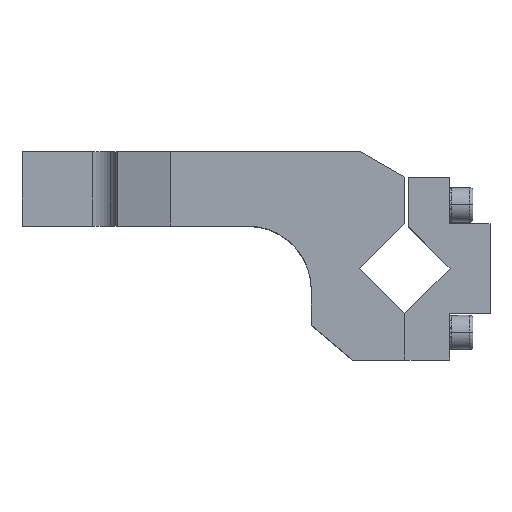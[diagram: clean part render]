
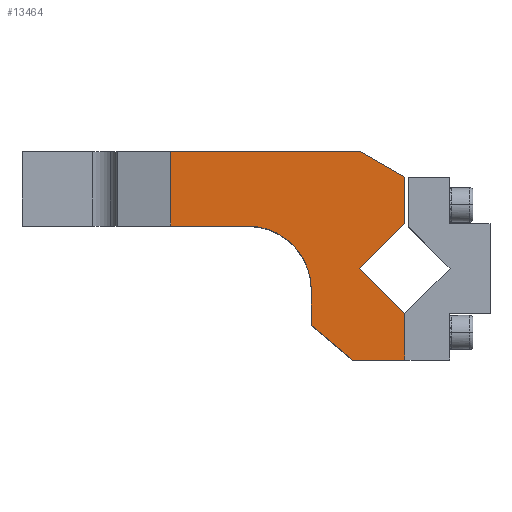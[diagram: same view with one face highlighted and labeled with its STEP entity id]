
A CAD part, top view. The second image highlights one B-rep face of the part: STEP entity #13464.
In plain terms, the highlighted planar face has unit normal (0, 0, 1).
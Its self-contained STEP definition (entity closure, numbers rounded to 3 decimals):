
#49=CARTESIAN_POINT('',(76.024,-85.79,-104.608));
#50=VERTEX_POINT('',#49);
#59=CARTESIAN_POINT('',(54.811,-77.003,-104.608));
#60=VERTEX_POINT('',#59);
#61=CARTESIAN_POINT('',(54.811,-107.003,-104.608));
#62=DIRECTION('',(0.,0.,1.0));
#63=DIRECTION('',(0.707,0.707,0.));
#64=AXIS2_PLACEMENT_3D('',#61,#62,#63);
#65=CIRCLE('',#64,30.0);
#66=EDGE_CURVE('',#50,#60,#65,.T.);
#11863=CARTESIAN_POINT('',(128.811,-118.216,-104.608));
#11864=VERTEX_POINT('',#11863);
#11871=CARTESIAN_POINT('',(128.811,-140.003,-104.608));
#11872=VERTEX_POINT('',#11871);
#11873=CARTESIAN_POINT('',(128.811,-140.003,-104.608));
#11874=DIRECTION('',(0.0,1.0,0.0));
#11875=VECTOR('',#11874,21.787);
#11876=LINE('',#11873,#11875);
#11877=EDGE_CURVE('',#11872,#11864,#11876,.T.);
#12397=CARTESIAN_POINT('',(18.811,-42.003,-104.608));
#12398=VERTEX_POINT('',#12397);
#12405=CARTESIAN_POINT('',(108.026,-42.003,-104.608));
#12406=VERTEX_POINT('',#12405);
#12407=CARTESIAN_POINT('',(108.026,-42.003,-104.608));
#12408=DIRECTION('',(-1.0,0.0,0.0));
#12409=VECTOR('',#12408,89.215);
#12410=LINE('',#12407,#12409);
#12411=EDGE_CURVE('',#12406,#12398,#12410,.T.);
#13088=CARTESIAN_POINT('',(18.811,-77.003,-104.608));
#13089=VERTEX_POINT('',#13088);
#13090=CARTESIAN_POINT('',(18.811,-77.003,-104.608));
#13091=DIRECTION('',(1.0,0.0,0.0));
#13092=VECTOR('',#13091,36.);
#13093=LINE('',#13090,#13092);
#13094=EDGE_CURVE('',#13089,#60,#13093,.T.);
#13288=CARTESIAN_POINT('',(84.811,-107.003,-104.608));
#13289=VERTEX_POINT('',#13288);
#13296=CARTESIAN_POINT('',(54.811,-107.003,-104.608));
#13297=DIRECTION('',(0.,0.,1.0));
#13298=DIRECTION('',(0.707,0.707,0.));
#13299=AXIS2_PLACEMENT_3D('',#13296,#13297,#13298);
#13300=CIRCLE('',#13299,30.0);
#13301=EDGE_CURVE('',#13289,#50,#13300,.T.);
#13320=CARTESIAN_POINT('',(84.811,-123.641,-104.608));
#13321=VERTEX_POINT('',#13320);
#13328=CARTESIAN_POINT('',(84.811,-107.003,-104.608));
#13329=DIRECTION('',(0.0,-1.0,0.0));
#13330=VECTOR('',#13329,16.638);
#13331=LINE('',#13328,#13330);
#13332=EDGE_CURVE('',#13289,#13321,#13331,.T.);
#13401=CARTESIAN_POINT('',(129.063,-97.003,-104.608));
#13402=DIRECTION('',(0.0,0.0,1.0));
#13403=DIRECTION('',(1.0,0.0,0.0));
#13404=AXIS2_PLACEMENT_3D('',#13401,#13402,#13403);
#13405=PLANE('',#13404);
#13406=ORIENTED_EDGE('',*,*,#13094,.T.);
#13407=ORIENTED_EDGE('',*,*,#66,.F.);
#13408=ORIENTED_EDGE('',*,*,#13301,.F.);
#13409=ORIENTED_EDGE('',*,*,#13332,.T.);
#13410=CARTESIAN_POINT('',(104.311,-140.003,-104.608));
#13411=VERTEX_POINT('',#13410);
#13412=CARTESIAN_POINT('',(84.811,-123.641,-104.608));
#13413=DIRECTION('',(0.766,-0.643,0.));
#13414=VECTOR('',#13413,25.455);
#13415=LINE('',#13412,#13414);
#13416=EDGE_CURVE('',#13321,#13411,#13415,.T.);
#13417=ORIENTED_EDGE('',*,*,#13416,.T.);
#13418=CARTESIAN_POINT('',(104.311,-140.003,-104.608));
#13419=DIRECTION('',(1.0,0.0,0.0));
#13420=VECTOR('',#13419,24.5);
#13421=LINE('',#13418,#13420);
#13422=EDGE_CURVE('',#13411,#11872,#13421,.T.);
#13423=ORIENTED_EDGE('',*,*,#13422,.T.);
#13424=ORIENTED_EDGE('',*,*,#11877,.T.);
#13425=CARTESIAN_POINT('',(107.598,-97.003,-104.608));
#13426=VERTEX_POINT('',#13425);
#13427=CARTESIAN_POINT('',(128.811,-118.216,-104.608));
#13428=DIRECTION('',(-0.707,0.707,0.));
#13429=VECTOR('',#13428,30.);
#13430=LINE('',#13427,#13429);
#13431=EDGE_CURVE('',#11864,#13426,#13430,.T.);
#13432=ORIENTED_EDGE('',*,*,#13431,.T.);
#13433=CARTESIAN_POINT('',(128.811,-75.79,-104.608));
#13434=VERTEX_POINT('',#13433);
#13435=CARTESIAN_POINT('',(107.598,-97.003,-104.608));
#13436=DIRECTION('',(0.707,0.707,0.));
#13437=VECTOR('',#13436,30.);
#13438=LINE('',#13435,#13437);
#13439=EDGE_CURVE('',#13426,#13434,#13438,.T.);
#13440=ORIENTED_EDGE('',*,*,#13439,.T.);
#13441=CARTESIAN_POINT('',(128.811,-54.003,-104.608));
#13442=VERTEX_POINT('',#13441);
#13443=CARTESIAN_POINT('',(128.811,-75.79,-104.608));
#13444=DIRECTION('',(0.0,1.0,0.0));
#13445=VECTOR('',#13444,21.787);
#13446=LINE('',#13443,#13445);
#13447=EDGE_CURVE('',#13434,#13442,#13446,.T.);
#13448=ORIENTED_EDGE('',*,*,#13447,.T.);
#13449=CARTESIAN_POINT('',(128.811,-54.003,-104.608));
#13450=DIRECTION('',(-0.866,0.5,0.));
#13451=VECTOR('',#13450,24.);
#13452=LINE('',#13449,#13451);
#13453=EDGE_CURVE('',#13442,#12406,#13452,.T.);
#13454=ORIENTED_EDGE('',*,*,#13453,.T.);
#13455=ORIENTED_EDGE('',*,*,#12411,.T.);
#13456=CARTESIAN_POINT('',(18.811,-42.003,-104.608));
#13457=DIRECTION('',(0.0,-1.0,0.0));
#13458=VECTOR('',#13457,35.);
#13459=LINE('',#13456,#13458);
#13460=EDGE_CURVE('',#12398,#13089,#13459,.T.);
#13461=ORIENTED_EDGE('',*,*,#13460,.T.);
#13462=EDGE_LOOP('',(#13406,#13407,#13408,#13409,#13417,#13423,#13424,#13432,#13440,#13448,#13454,#13455,#13461));
#13463=FACE_OUTER_BOUND('',#13462,.T.);
#13464=ADVANCED_FACE('',(#13463),#13405,.T.);
